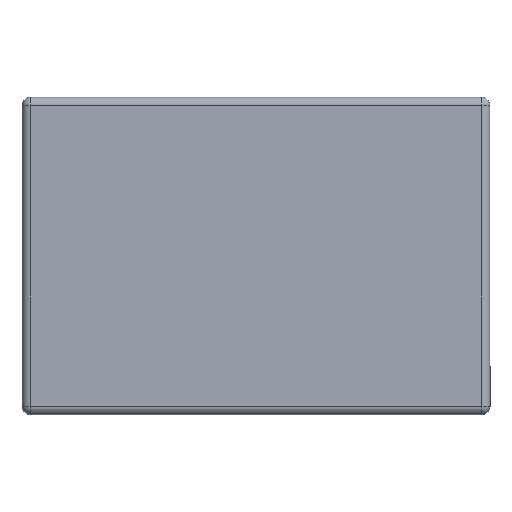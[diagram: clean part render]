
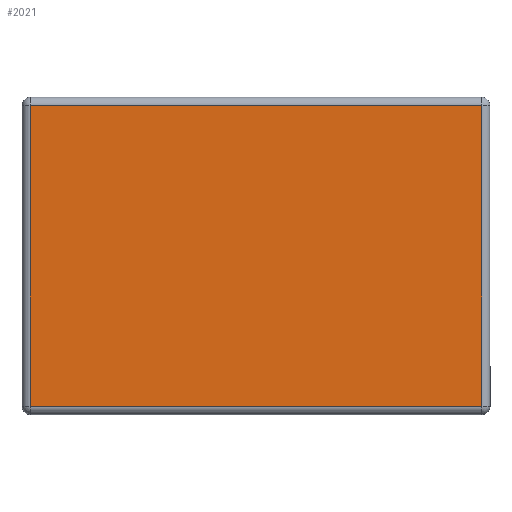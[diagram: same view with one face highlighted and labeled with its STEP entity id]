
A CAD part, top view. The second image highlights one B-rep face of the part: STEP entity #2021.
In plain terms, the highlighted planar face has unit normal (0, 0, 1) as drawn and (0, 0, -1) by its records, which use the part's own axes.
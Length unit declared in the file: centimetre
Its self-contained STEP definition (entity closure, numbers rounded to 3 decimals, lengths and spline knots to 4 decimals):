
#147=PLANE('',#2671);
#223=VECTOR('',#2163,1.);
#227=VECTOR('',#2173,1.);
#231=VECTOR('',#2183,1.);
#233=VECTOR('',#2187,1.);
#397=LINE('',#2877,#223);
#401=LINE('',#2886,#227);
#405=LINE('',#2895,#231);
#407=LINE('',#2898,#233);
#609=VERTEX_POINT('',#2850);
#614=VERTEX_POINT('',#2860);
#615=VERTEX_POINT('',#2864);
#618=VERTEX_POINT('',#2871);
#878=EDGE_CURVE('',#618,#614,#397,.T.);
#883=EDGE_CURVE('',#615,#618,#401,.T.);
#888=EDGE_CURVE('',#609,#615,#405,.T.);
#890=EDGE_CURVE('',#614,#609,#407,.T.);
#1186=ORIENTED_EDGE('',*,*,#878,.F.);
#1187=ORIENTED_EDGE('',*,*,#883,.F.);
#1188=ORIENTED_EDGE('',*,*,#888,.F.);
#1189=ORIENTED_EDGE('',*,*,#890,.F.);
#1657=EDGE_LOOP('',(#1186,#1187,#1188,#1189));
#1839=FACE_BOUND('',#1657,.T.);
#2021=ADVANCED_FACE('',(#1839),#147,.F.);
#2163=DIRECTION('',(0.,-1.,0.));
#2173=DIRECTION('',(-1.,0.,0.));
#2183=DIRECTION('',(0.,1.,0.));
#2187=DIRECTION('',(1.,0.,0.));
#2211=DIRECTION('',(0.,0.,1.));
#2671=AXIS2_PLACEMENT_3D('',#2927,#2211,$);
#2850=CARTESIAN_POINT('',(10.85,0.2,0.));
#2860=CARTESIAN_POINT('',(0.2,0.2,0.));
#2864=CARTESIAN_POINT('',(10.85,7.3,0.));
#2871=CARTESIAN_POINT('',(0.2,7.3,0.));
#2877=CARTESIAN_POINT('',(0.2,1.875,0.));
#2886=CARTESIAN_POINT('',(2.7625,7.3,0.));
#2895=CARTESIAN_POINT('',(10.85,5.625,0.));
#2898=CARTESIAN_POINT('',(8.2875,0.2,0.));
#2927=CARTESIAN_POINT('',(5.525,3.75,0.));
